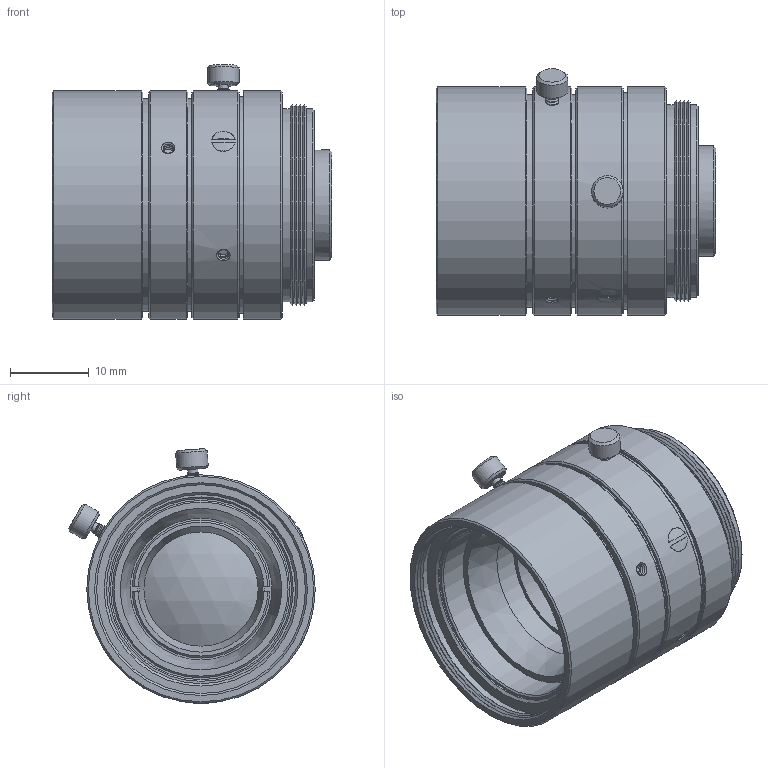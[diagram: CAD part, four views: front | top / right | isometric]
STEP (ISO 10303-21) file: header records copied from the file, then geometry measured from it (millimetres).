
FILE_DESCRIPTION(/* description */ (''),/* implementation_level */ '2;1');
FILE_NAME(/* name */ 'C:\#Vault-WorkDir\Konstruktions-Dokumente\Projekte\VISOR\Zubehör\153-13655_Objektiv LOC-16-HD-27x0,5.stp',/* time_stamp */ '2020-03-26T10:04:35+01:00',/* author */ ('SensoPart'),/* organization */ ('SensoPart'),/* preprocessor_version */ 'ST-DEVELOPER v17',/* originating_system */ 'Autodesk Inventor 2018',/* authorisation */ '');
FILE_SCHEMA (('AUTOMOTIVE_DESIGN { 1 0 10303 214 3 1 1 }'));
Length unit declared in the file: millimetre
Products named in the file (1): GH-ENG-0031362
Bounding box: 35.51 x 31.28 x 32.33 mm (x, y, z)
Volume: 14556.1 mm3; surface area: 9696.2 mm2
Topology: 1 solids, 10 shells, 303 faces, 825 edges, 572 vertices
Faces by surface type: cone 136, plane 88, cylinder 74, sphere 5
Full cylindrical faces by diameter (mm): 1.3 x2, 1.5 x4, 2 x4, 4 x2, 9.5 x1, 10.5 x1, 11.5 x1, 13 x2, 14 x1, 14.5 x1, 16.152 x1, 18 x1, 21.5 x1, 22.5 x2, 23 x1, 24 x2, 24.5 x3, 25 x2, 27 x2, 27.5 x4, 28 x1, 29 x4
Entity records: 10478 total; most frequent: CARTESIAN_POINT 2154, DIRECTION 1899, ORIENTED_EDGE 1666, EDGE_CURVE 833, AXIS2_PLACEMENT_3D 786, VERTEX_POINT 572, CIRCLE 482, EDGE_LOOP 361
